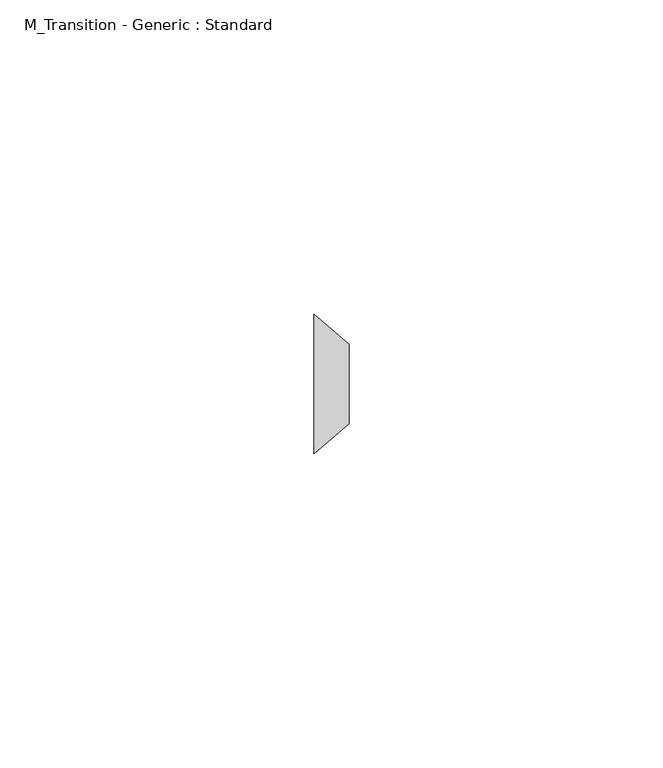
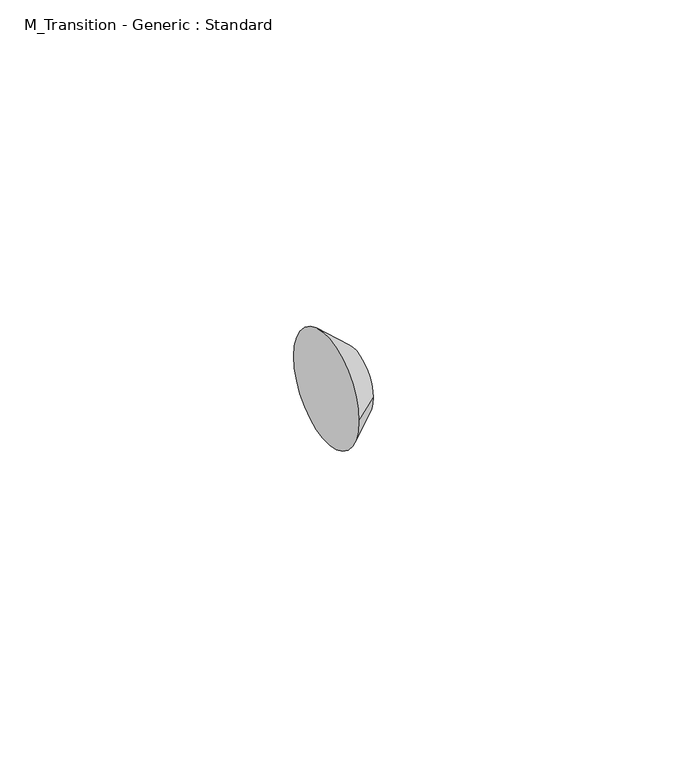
"""IFC4 building model written with IfcOpenShell, lengths in millimetres: pipe fitting geometry, M_Transition - Generic : Standard."""

from ifc_helpers import new_model, si_unit, frame, origin, place, context, project, spatial, circle_curve, source, transform, mapped, element, save
from ifc_brep_helpers import plane_surface, spline_surface, advanced_brep


def m_transition_generic_standard_bb155b95(model_context):
    return source(origin(), model_context, "Body", "AdvancedBrep", [
        advanced_brep(
        [(5.55625, -6.3375, 3.98e-05), (5.55625, 6.3375, 3.98e-05), (0.0, -11.1125, 0.0), (0.0, 11.1125, 0.0)],
        [
            (0, 1, circle_curve(frame((5.55625, 0.0, 3.98e-05), z_axis=(1.0, 0.0, 0.0), x_axis=(0.0, 1.0, 0.0)), 6.3375)),
            (1, 0, circle_curve(frame((5.55625, 0.0, 3.98e-05), z_axis=(1.0, 0.0, 0.0), x_axis=(0.0, 1.0, 0.0)), 6.3375)),
            (2, 3, circle_curve(frame((0.0, 0.0, 0.0), z_axis=(-1.0, 0.0, 0.0), x_axis=(0.0, 1.0, 0.0)), 11.1125)),
            (3, 2, circle_curve(frame((0.0, 0.0, 0.0), z_axis=(-1.0, 0.0, 0.0), x_axis=(0.0, 1.0, 0.0)), 11.1125)),
            (3, 1),
            (0, 2),
        ],
        [
            plane_surface(frame((5.55625, 0.0, 3.98e-05), z_axis=(1.0, 0.0, 0.0), x_axis=(0.0, 0.0, -1.0))),
            plane_surface(frame((0.0, 0.0, 0.0), z_axis=(-1.0, 0.0, 0.0), x_axis=(0.0, 0.0, -1.0))),
            spline_surface(2, 1, [[(0.0, -11.1125, 0.0), (5.55625, -6.3375, 3.98e-05)], [(0.0, -11.1125, -11.1125), (5.55625, -6.3375, -6.337460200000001)], [(0.0, 0.0, -11.1125), (5.55625, 0.0, -6.337460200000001)], [(0.0, 11.1125, -11.1125), (5.55625, 6.3375, -6.337460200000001)], [(0.0, 11.1125, 0.0), (5.55625, 6.3375, 3.98e-05)]], [3, 2, 3], [2, 2], [0.0, 1.0, 2.0], [0.0, 1.0], weights=[[1.0, 1.0], [0.7071067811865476, 0.7071067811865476], [1.0, 1.0], [0.7071067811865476, 0.7071067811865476], [1.0, 1.0]]),
            spline_surface(2, 1, [[(0.0, 11.1125, 0.0), (5.55625, 6.3375, 3.98e-05)], [(0.0, 11.1125, 11.1125), (5.55625, 6.3375, 6.3375398)], [(0.0, 0.0, 11.1125), (5.55625, 0.0, 6.3375398)], [(0.0, -11.1125, 11.1125), (5.55625, -6.3375, 6.3375398)], [(0.0, -11.1125, 0.0), (5.55625, -6.3375, 3.98e-05)]], [3, 2, 3], [2, 2], [0.0, 1.0, 2.0], [0.0, 1.0], weights=[[1.0, 1.0], [0.7071067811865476, 0.7071067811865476], [1.0, 1.0], [0.7071067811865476, 0.7071067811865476], [1.0, 1.0]]),
        ],
        [
            (0, [[1, 2]]),
            (1, [[3, 4]]),
            (2, [[-4, 5, -1, 6]]),
            (3, [[-3, -6, -2, -5]]),
        ],
    ),
    ])


if __name__ == "__main__":
    model = new_model("IFC4")
    model_context = context("Model", 3, world=origin())
    ifc_project = project(units=[si_unit("LENGTHUNIT", "METRE", prefix="MILLI")], contexts=[model_context])
    site = spatial("IfcSite", under=ifc_project)
    building = spatial("IfcBuilding", under=site)
    placement = place(None, origin())
    m_transition_generic_standard_shape = m_transition_generic_standard_bb155b95(model_context)
    element("IfcPipeFitting", 1, ObjectType="M_Transition - Generic : Standard", at=placement, inside=building, context=model_context, shape_type="MappedRepresentation", body=[
        mapped(m_transition_generic_standard_shape, transform((0.0, 0.0, 0.0), x_axis=(1.0, 0.0, 0.0), y_axis=(0.0, 1.0, 0.0), z_axis=(0.0, 0.0, 1.0))),
    ])
    save(model, "model.ifc")
